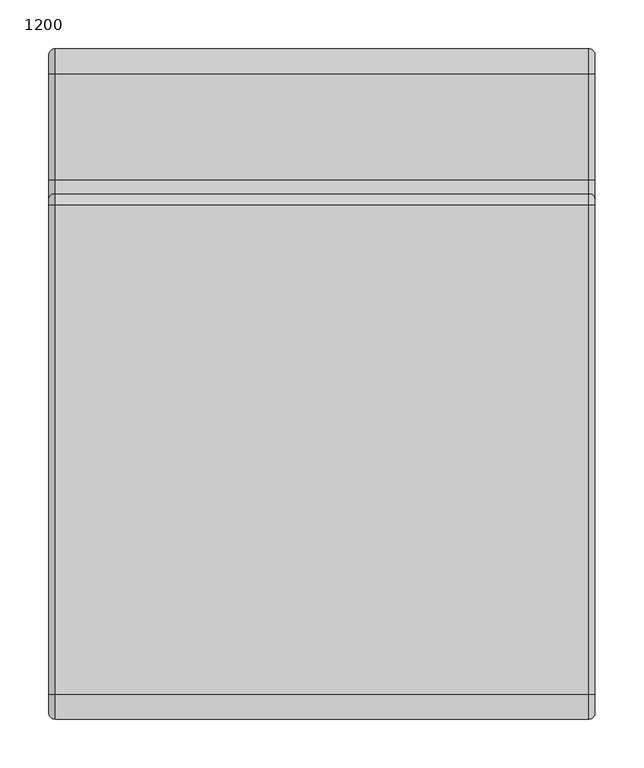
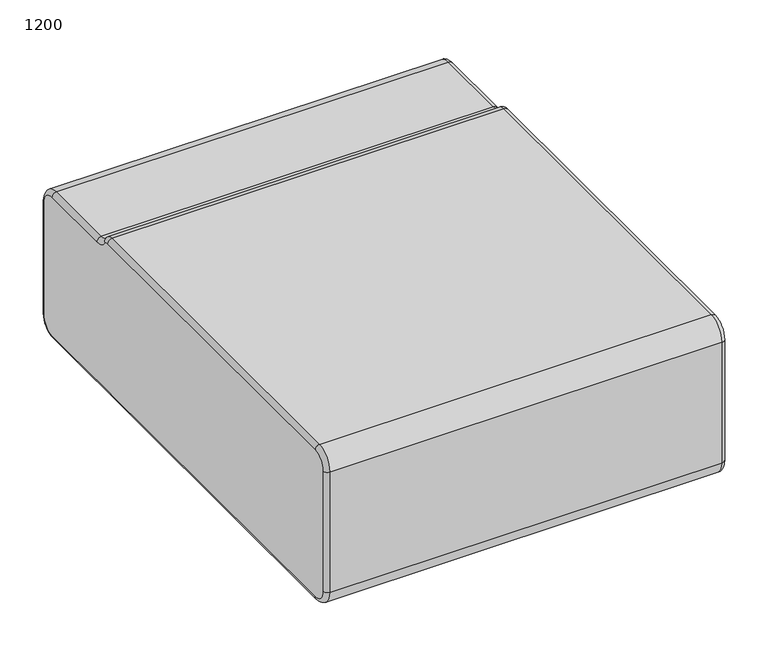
"""IFC4 building model written with IfcOpenShell, lengths in millimetres: furniture geometry, Laguna-Modular-Straight-ERG : 1200."""

from ifc_helpers import new_model, si_unit, point, frame, origin, place, context, project, spatial, polyline, circle_curve, ellipse_curve, trimmed, source, transform, mapped, element, save
from ifc_brep_helpers import plane_surface, cylinder_surface, revolved_surface, advanced_brep


def furniture_1200_cece1507(model_context):
    return source(origin(), model_context, "Body", "AdvancedBrep", [
        advanced_brep(
        [(-4103.9421763, 1208.7558502, 209.55), (-4103.9421763, 1227.8058502, 228.6), (-4103.9421763, 1227.8058502, 393.7), (-4103.9421763, 1208.7558502, 412.75), (-4103.9421763, 1100.3633388, 412.75), (-4103.9421763, 1081.0629451, 422.2976649), (-4103.9421763, 1074.6905694, 425.45), (-4103.9421763, 573.7558502, 425.45), (-4103.9421763, 554.7058502, 406.4), (-4103.9421763, 554.7058502, 228.6), (-4103.9421763, 573.7558513, 209.55), (-4662.7421763, 573.7558502, 209.55), (-4662.7421763, 554.7058502, 228.6), (-4662.7421763, 554.7058502, 406.4), (-4662.7421763, 573.7558502, 425.45), (-4662.7421763, 1074.6905694, 425.45), (-4662.7421763, 1081.0629451, 422.2976649), (-4662.7421763, 1100.3633388, 412.75), (-4662.7421763, 1208.7558502, 412.75), (-4662.7421763, 1227.8058502, 393.7), (-4662.7421763, 1227.8058502, 228.6), (-4662.7421763, 1208.7558502, 209.55), (-4110.2921763, 1208.7558502, 203.2), (-4110.2921763, 1234.1558502, 228.6), (-4110.2921763, 1234.1558502, 393.7), (-4110.2921763, 1208.7558502, 419.1), (-4110.2921763, 1100.3633388, 419.1), (-4110.2921763, 1086.1103079, 426.1507973), (-4110.2921763, 1074.6905694, 431.8), (-4110.2921763, 573.7558502, 431.8), (-4110.2921763, 548.3558502, 406.4), (-4110.2921763, 548.3558502, 228.6), (-4110.2921763, 573.7558502, 203.2), (-4656.3921763, 573.7558502, 203.2), (-4656.3921763, 1208.7558502, 203.2), (-4656.3921763, 1234.1558502, 228.6), (-4656.3921763, 1234.1558502, 393.7), (-4656.3921763, 1208.7558502, 419.1), (-4656.3921763, 1100.3633388, 419.1), (-4656.3921763, 1086.1103079, 426.1507973), (-4656.3921763, 1074.6905694, 431.8), (-4656.3921763, 573.7558502, 431.8), (-4656.3921763, 548.3558502, 406.4), (-4656.3921763, 548.3558502, 228.6)],
        [
            (0, 1, circle_curve(frame((-4103.9421763, 1208.7558502, 228.6), z_axis=(1.0, 0.0, 0.0), x_axis=(0.0, 0.0, -1.0)), 19.05)),
            (1, 2),
            (2, 3, circle_curve(frame((-4103.9421763, 1208.7558502, 393.7), z_axis=(1.0, 0.0, 0.0), x_axis=(0.0, 1.0, 0.0)), 19.05)),
            (3, 4),
            (4, 5, circle_curve(frame((-4103.9421763, 1100.3633388, 437.0314921), z_axis=(-1.0, 0.0, 0.0), x_axis=(0.0, 0.0, -1.0)), 24.2814921)),
            (5, 6, circle_curve(frame((-4103.9421763, 1074.6905694, 417.4330241), z_axis=(1.0, 0.0, 0.0), x_axis=(0.0, 0.7948602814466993, 0.6067924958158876)), 8.0169759)),
            (6, 7),
            (7, 8, circle_curve(frame((-4103.9421763, 573.7558502, 406.4), z_axis=(1.0, 0.0, 0.0), x_axis=(0.0, 0.0, 1.0)), 19.05)),
            (8, 9),
            (9, 10, circle_curve(frame((-4103.9421763, 573.7558502, 228.6), z_axis=(1.0, 0.0, 0.0), x_axis=(0.0, -1.0, 0.0)), 19.05)),
            (10, 0),
            (11, 12, circle_curve(frame((-4662.7421763, 573.7558502, 228.6), z_axis=(-1.0, 0.0, 0.0), x_axis=(0.0, -1.0, 0.0)), 19.05)),
            (12, 13),
            (13, 14, circle_curve(frame((-4662.7421763, 573.7558502, 406.4), z_axis=(-1.0, 0.0, 0.0), x_axis=(0.0, 0.0, 1.0)), 19.05)),
            (14, 15),
            (15, 16, circle_curve(frame((-4662.7421763, 1074.6905694, 417.4330241), z_axis=(-1.0, 0.0, 0.0), x_axis=(0.0, 0.7948602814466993, 0.6067924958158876)), 8.0169759)),
            (16, 17, circle_curve(frame((-4662.7421763, 1100.3633388, 437.0314921), z_axis=(1.0, 0.0, 0.0), x_axis=(0.0, 0.0, -1.0)), 24.2814921)),
            (17, 18),
            (18, 19, circle_curve(frame((-4662.7421763, 1208.7558502, 393.7), z_axis=(-1.0, 0.0, 0.0), x_axis=(0.0, 1.0, 0.0)), 19.05)),
            (19, 20),
            (20, 21, circle_curve(frame((-4662.7421763, 1208.7558502, 228.6), z_axis=(-1.0, 0.0, 0.0), x_axis=(0.0, 0.0, -1.0)), 19.05)),
            (21, 11),
            (0, 22, circle_curve(frame((-4110.2921763, 1208.7558502, 209.55), z_axis=(0.0, 1.0, 0.0), x_axis=(0.0, 0.0, 1.0)), 6.35)),
            (22, 23, circle_curve(frame((-4110.2921763, 1208.7558502, 228.6), z_axis=(1.0, 0.0, 0.0), x_axis=(0.0, 0.0, -1.0)), 25.4)),
            (23, 1, circle_curve(frame((-4110.2921763, 1227.8058502, 228.6), z_axis=(0.0, 0.0, -1.0), x_axis=(0.0, -1.0, 0.0)), 6.35)),
            (23, 24),
            (24, 2, circle_curve(frame((-4110.2921763, 1227.8058502, 393.7), z_axis=(0.0, 0.0, -1.0), x_axis=(0.0, -1.0, 0.0)), 6.35)),
            (24, 25, circle_curve(frame((-4110.2921763, 1208.7558502, 393.7), z_axis=(1.0, 0.0, 0.0), x_axis=(0.0, 1.0, 0.0)), 25.4)),
            (25, 3, circle_curve(frame((-4110.2921763, 1208.7558502, 412.75), z_axis=(0.0, 1.0, 0.0), x_axis=(0.0, 0.0, -1.0)), 6.35)),
            (25, 26),
            (26, 4, circle_curve(frame((-4110.2921763, 1100.3633388, 412.75), z_axis=(0.0, 1.0, 0.0), x_axis=(0.0, 0.0, -1.0)), 6.35)),
            (26, 27, circle_curve(frame((-4110.2921763, 1100.3633388, 437.0314921), z_axis=(-1.0, 0.0, 0.0), x_axis=(0.0, 0.0, -1.0)), 17.9314921)),
            (27, 5, circle_curve(frame((-4110.2921763, 1081.0629451, 422.2976649), z_axis=(0.0, 0.6067924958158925, -0.7948602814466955), x_axis=(0.0, -0.7948602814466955, -0.6067924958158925)), 6.35)),
            (27, 28, circle_curve(frame((-4110.2921763, 1074.6905694, 417.4330241), z_axis=(1.0, 0.0, 0.0), x_axis=(0.0, 0.7948602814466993, 0.6067924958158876)), 14.3669759)),
            (28, 6, circle_curve(frame((-4110.2921763, 1074.6905694, 425.45), z_axis=(0.0, 1.0, 0.0), x_axis=(0.0, 0.0, -1.0)), 6.35)),
            (28, 29),
            (29, 7, circle_curve(frame((-4110.2921763, 573.7558502, 425.45), z_axis=(0.0, 1.0, 0.0), x_axis=(0.0, 0.0, -1.0)), 6.35)),
            (29, 30, circle_curve(frame((-4110.2921763, 573.7558502, 406.4), z_axis=(1.0, 0.0, 0.0), x_axis=(0.0, 0.0, 1.0)), 25.4)),
            (30, 8, circle_curve(frame((-4110.2921763, 554.7058502, 406.4), z_axis=(0.0, 0.0, 1.0), x_axis=(0.0, 1.0, 0.0)), 6.35)),
            (30, 31),
            (31, 9, circle_curve(frame((-4110.2921763, 554.7058502, 228.6), z_axis=(0.0, 0.0, 1.0), x_axis=(0.0, 1.0, 0.0)), 6.35)),
            (31, 32, circle_curve(frame((-4110.2921763, 573.7558502, 228.6), z_axis=(1.0, 0.0, 0.0), x_axis=(0.0, -1.0, 0.0)), 25.4)),
            (32, 10, circle_curve(frame((-4110.2921763, 573.7558502, 209.55), z_axis=(0.0, -1.0, 0.0), x_axis=(0.0, 0.0, 1.0)), 6.35)),
            (32, 22),
            (32, 33),
            (33, 34),
            (34, 22),
            (34, 35, circle_curve(frame((-4656.3921763, 1208.7558502, 228.6), z_axis=(1.0, 0.0, 0.0), x_axis=(0.0, 1.0, 0.0)), 25.4)),
            (35, 23),
            (35, 36),
            (36, 24),
            (36, 37, circle_curve(frame((-4656.3921763, 1208.7558502, 393.7), z_axis=(1.0, 0.0, 0.0), x_axis=(0.0, 1.0, 0.0)), 25.4)),
            (37, 25),
            (37, 38),
            (38, 26),
            (38, 39, circle_curve(frame((-4656.3921763, 1100.3633388, 437.0314921), z_axis=(-1.0, 0.0, 0.0), x_axis=(0.0, 1.0, 0.0)), 17.9314921)),
            (39, 27),
            (39, 40, circle_curve(frame((-4656.3921763, 1074.6905694, 417.4330241), z_axis=(1.0, 0.0, 0.0), x_axis=(0.0, 1.0, 0.0)), 14.3669759)),
            (40, 28),
            (40, 41),
            (41, 29),
            (41, 42, circle_curve(frame((-4656.3921763, 573.7558502, 406.4), z_axis=(1.0, 0.0, 0.0), x_axis=(0.0, 1.0, 0.0)), 25.4)),
            (42, 30),
            (42, 43),
            (43, 31),
            (43, 33, circle_curve(frame((-4656.3921763, 573.7558502, 228.6), z_axis=(1.0, 0.0, 0.0), x_axis=(0.0, 1.0, 0.0)), 25.4)),
            (43, 12, circle_curve(frame((-4656.3921763, 554.7058502, 228.6), z_axis=(0.0, 0.0, -1.0), x_axis=(1.0, 0.0, 0.0)), 6.35)),
            (11, 33, circle_curve(frame((-4656.3921763, 573.7558502, 209.55), z_axis=(0.0, -1.0, 0.0), x_axis=(1.0, 0.0, 0.0)), 6.35)),
            (21, 34, circle_curve(frame((-4656.3921763, 1208.7558502, 209.55), z_axis=(0.0, -1.0, 0.0), x_axis=(1.0, 0.0, 0.0)), 6.35)),
            (20, 35, circle_curve(frame((-4656.3921763, 1227.8058502, 228.6), z_axis=(0.0, 0.0, -1.0), x_axis=(1.0, 0.0, 0.0)), 6.35)),
            (19, 36, circle_curve(frame((-4656.3921763, 1227.8058502, 393.7), z_axis=(0.0, 0.0, -1.0), x_axis=(1.0, 0.0, 0.0)), 6.35)),
            (18, 37, circle_curve(frame((-4656.3921763, 1208.7558502, 412.75), z_axis=(0.0, 1.0, 0.0), x_axis=(1.0, 0.0, 0.0)), 6.35)),
            (17, 38, circle_curve(frame((-4656.3921763, 1100.3633388, 412.75), z_axis=(0.0, 1.0, 0.0), x_axis=(1.0, 0.0, 0.0)), 6.35)),
            (16, 39, circle_curve(frame((-4656.3921763, 1081.0629451, 422.2976649), z_axis=(0.0, 0.6067924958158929, -0.7948602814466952), x_axis=(1.0, 0.0, 0.0)), 6.35)),
            (15, 40, circle_curve(frame((-4656.3921763, 1074.6905694, 425.45), z_axis=(0.0, 1.0, 0.0), x_axis=(1.0, 0.0, 0.0)), 6.35)),
            (14, 41, circle_curve(frame((-4656.3921763, 573.7558502, 425.45), z_axis=(0.0, 1.0, 0.0), x_axis=(1.0, 0.0, 0.0)), 6.35)),
            (13, 42, circle_curve(frame((-4656.3921763, 554.7058502, 406.4), z_axis=(0.0, 0.0, 1.0), x_axis=(1.0, 0.0, 0.0)), 6.35)),
        ],
        [
            plane_surface(frame((-4103.9421763, 1208.7558502, 209.55), z_axis=(1.0, 0.0, 0.0), x_axis=(0.0, 1.0, 0.0))),
            plane_surface(frame((-4662.7421763, 587.7103097, 425.45), z_axis=(-1.0, 0.0, 0.0), x_axis=(0.0, 1.0, 0.0))),
            revolved_surface(trimmed(ellipse_curve(frame((-4110.2921763, 1208.7558502, 209.55), z_axis=(0.0, -1.0, 0.0), x_axis=(0.0, 0.0, 1.0)), 6.35, 6.35), [point((-4110.2921763, 1208.7558502, 203.2))], [point((-4103.9421763, 1208.7558502, 209.55))], True, "CARTESIAN"), (-4110.2921763, 1208.7558502, 228.6), (1.0, 0.0, 0.0)),
            cylinder_surface(frame((-4110.2921763, 1227.8058502, 228.6), z_axis=(0.0, 0.0, -1.0), x_axis=(0.0, -1.0, 0.0)), 6.35),
            revolved_surface(trimmed(ellipse_curve(frame((-4110.2921763, 1227.8058502, 393.7), z_axis=(0.0, 0.0, -1.0), x_axis=(0.0, -1.0, 0.0)), 6.35, 6.35), [point((-4110.2921763, 1234.1558502, 393.7))], [point((-4103.9421763, 1227.8058502, 393.7))], True, "CARTESIAN"), (-4110.2921763, 1208.7558502, 393.7), (1.0, 0.0, 0.0)),
            cylinder_surface(frame((-4110.2921763, 1208.7558502, 412.75), z_axis=(0.0, 1.0, 0.0), x_axis=(0.0, 0.0, -1.0)), 6.35),
            revolved_surface(trimmed(ellipse_curve(frame((-4110.2921763, 1100.3633388, 412.75), z_axis=(0.0, 1.0, 0.0), x_axis=(0.0, 0.0, -1.0)), 6.35, 6.35), [point((-4110.2921763, 1100.3633388, 419.1))], [point((-4103.9421763, 1100.3633388, 412.75))], True, "CARTESIAN"), (-4110.2921763, 1100.3633388, 437.0314921), (-1.0, 0.0, 0.0)),
            revolved_surface(trimmed(ellipse_curve(frame((-4110.2921763, 1081.0629451, 422.2976649), z_axis=(0.0, 0.6067924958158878, -0.7948602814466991), x_axis=(0.0, -0.7948602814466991, -0.6067924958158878)), 6.35, 6.35), [point((-4110.2921763, 1086.1103079, 426.1507973))], [point((-4103.9421763, 1081.0629451, 422.2976649))], True, "CARTESIAN"), (-4110.2921763, 1074.6905694, 417.4330241), (1.0, 0.0, 0.0)),
            cylinder_surface(frame((-4110.2921763, 1074.6905694, 425.45), z_axis=(0.0, 1.0, 0.0), x_axis=(0.0, 0.0, -1.0)), 6.35),
            revolved_surface(trimmed(ellipse_curve(frame((-4110.2921763, 573.7558502, 425.45), z_axis=(0.0, 1.0, 0.0), x_axis=(0.0, 0.0, -1.0)), 6.35, 6.35), [point((-4110.2921763, 573.7558502, 431.8))], [point((-4103.9421763, 573.7558502, 425.45))], True, "CARTESIAN"), (-4110.2921763, 573.7558502, 406.4), (1.0, 0.0, 0.0)),
            cylinder_surface(frame((-4110.2921763, 554.7058502, 406.4), z_axis=(0.0, 0.0, 1.0), x_axis=(0.0, 1.0, 0.0)), 6.35),
            revolved_surface(trimmed(ellipse_curve(frame((-4110.2921763, 554.7058502, 228.6), z_axis=(0.0, 0.0, 1.0), x_axis=(0.0, 1.0, 0.0)), 6.35, 6.35), [point((-4110.2921763, 548.3558502, 228.6))], [point((-4103.9421763, 554.7058502, 228.6))], True, "CARTESIAN"), (-4110.2921763, 573.7558502, 228.6), (1.0, 0.0, 0.0)),
            cylinder_surface(frame((-4110.2921763, 573.7558502, 209.55), z_axis=(0.0, -1.0, 0.0), x_axis=(0.0, 0.0, 1.0)), 6.35),
            plane_surface(frame((-4110.2921763, 573.7558502, 203.2), z_axis=(0.0, 0.0, -1.0), x_axis=(-1.0, 0.0, 0.0))),
            cylinder_surface(frame((-4656.3921763, 1208.7558502, 228.6), z_axis=(1.0, 0.0, 0.0), x_axis=(0.0, 1.0, 0.0)), 25.4),
            plane_surface(frame((-4110.2921763, 1234.1558502, 228.6), z_axis=(0.0, 1.0, 0.0), x_axis=(-1.0, 0.0, 0.0))),
            cylinder_surface(frame((-4656.3921763, 1208.7558502, 393.7), z_axis=(1.0, 0.0, 0.0), x_axis=(0.0, 1.0, 0.0)), 25.4),
            plane_surface(frame((-4110.2921763, 1208.7558502, 419.1), z_axis=(0.0, 0.0, 1.0), x_axis=(-1.0, 0.0, 0.0))),
            revolved_surface(polyline([(-4656.3921763, 1118.2948309, 437.0314921), (-4110.2921763, 1118.2948309, 437.0314921)]), (-4656.3921763, 1100.3633388, 437.0314921), (-1.0, 0.0, 0.0)),
            cylinder_surface(frame((-4656.3921763, 1074.6905694, 417.4330241), z_axis=(1.0, 0.0, 0.0), x_axis=(0.0, 1.0, 0.0)), 14.3669759),
            plane_surface(frame((-4110.2921763, 1074.6905694, 431.8), z_axis=(0.0, 0.0, 1.0), x_axis=(-1.0, 0.0, 0.0))),
            cylinder_surface(frame((-4656.3921763, 573.7558502, 406.4), z_axis=(1.0, 0.0, 0.0), x_axis=(0.0, 1.0, 0.0)), 25.4),
            plane_surface(frame((-4110.2921763, 548.3558502, 406.4), z_axis=(0.0, -1.0, 0.0), x_axis=(-1.0, 0.0, 0.0))),
            cylinder_surface(frame((-4656.3921763, 573.7558502, 228.6), z_axis=(1.0, 0.0, 0.0), x_axis=(0.0, 1.0, 0.0)), 25.4),
            revolved_surface(trimmed(ellipse_curve(frame((-4656.3921763, 554.7058502, 228.6), z_axis=(0.0, 0.0, 1.0), x_axis=(1.0, 0.0, 0.0)), 6.35, 6.35), [point((-4662.7421763, 554.7058502, 228.6))], [point((-4656.3921763, 548.3558502, 228.6))], True, "CARTESIAN"), (-4656.3921763, 573.7558502, 228.6), (1.0, 0.0, 0.0)),
            cylinder_surface(frame((-4656.3921763, 573.7558502, 209.55), z_axis=(0.0, -1.0, 0.0), x_axis=(1.0, 0.0, 0.0)), 6.35),
            revolved_surface(trimmed(ellipse_curve(frame((-4656.3921763, 1208.7558502, 209.55), z_axis=(0.0, -1.0, 0.0), x_axis=(1.0, 0.0, 0.0)), 6.35, 6.35), [point((-4662.7421763, 1208.7558502, 209.55))], [point((-4656.3921763, 1208.7558502, 203.2))], True, "CARTESIAN"), (-4656.3921763, 1208.7558502, 228.6), (1.0, 0.0, 0.0)),
            cylinder_surface(frame((-4656.3921763, 1227.8058502, 228.6), z_axis=(0.0, 0.0, -1.0), x_axis=(1.0, 0.0, 0.0)), 6.35),
            revolved_surface(trimmed(ellipse_curve(frame((-4656.3921763, 1227.8058502, 393.7), z_axis=(0.0, 0.0, -1.0), x_axis=(1.0, 0.0, 0.0)), 6.35, 6.35), [point((-4662.7421763, 1227.8058502, 393.7))], [point((-4656.3921763, 1234.1558502, 393.7))], True, "CARTESIAN"), (-4656.3921763, 1208.7558502, 393.7), (1.0, 0.0, 0.0)),
            cylinder_surface(frame((-4656.3921763, 1208.7558502, 412.75), z_axis=(0.0, 1.0, 0.0), x_axis=(1.0, 0.0, 0.0)), 6.35),
            revolved_surface(trimmed(ellipse_curve(frame((-4656.3921763, 1100.3633388, 412.75), z_axis=(0.0, 1.0, 0.0), x_axis=(1.0, 0.0, 0.0)), 6.35, 6.35), [point((-4662.7421763, 1100.3633388, 412.75))], [point((-4656.3921763, 1100.3633388, 419.1))], True, "CARTESIAN"), (-4656.3921763, 1100.3633388, 437.0314921), (-1.0, 0.0, 0.0)),
            revolved_surface(trimmed(ellipse_curve(frame((-4656.3921763, 1081.0629451, 422.2976649), z_axis=(0.0, 0.6067924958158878, -0.7948602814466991), x_axis=(1.0, 0.0, 0.0)), 6.35, 6.35), [point((-4662.7421763, 1081.0629451, 422.2976649))], [point((-4656.3921763, 1086.1103079, 426.1507973))], True, "CARTESIAN"), (-4656.3921763, 1074.6905694, 417.4330241), (1.0, 0.0, 0.0)),
            cylinder_surface(frame((-4656.3921763, 1074.6905694, 425.45), z_axis=(0.0, 1.0, 0.0), x_axis=(1.0, 0.0, 0.0)), 6.35),
            revolved_surface(trimmed(ellipse_curve(frame((-4656.3921763, 573.7558502, 425.45), z_axis=(0.0, 1.0, 0.0), x_axis=(1.0, 0.0, 0.0)), 6.35, 6.35), [point((-4662.7421763, 573.7558502, 425.45))], [point((-4656.3921763, 573.7558502, 431.8))], True, "CARTESIAN"), (-4656.3921763, 573.7558502, 406.4), (1.0, 0.0, 0.0)),
            cylinder_surface(frame((-4656.3921763, 554.7058502, 406.4), z_axis=(0.0, 0.0, 1.0), x_axis=(1.0, 0.0, 0.0)), 6.35),
        ],
        [
            (0, [[1, 2, 3, 4, 5, 6, 7, 8, 9, 10, 11]]),
            (1, [[12, 13, 14, 15, 16, 17, 18, 19, 20, 21, 22]]),
            (2, [[23, 24, 25, -1]]),
            (3, [[-25, 26, 27, -2]]),
            (4, [[-27, 28, 29, -3]]),
            (5, [[-29, 30, 31, -4]]),
            (6, [[-31, 32, 33, -5]]),
            (7, [[-33, 34, 35, -6]]),
            (8, [[-35, 36, 37, -7]]),
            (9, [[-37, 38, 39, -8]]),
            (10, [[-39, 40, 41, -9]]),
            (11, [[-41, 42, 43, -10]]),
            (12, [[-23, -11, -43, 44]]),
            (13, [[45, 46, 47, -44]]),
            (14, [[-47, 48, 49, -24]]),
            (15, [[-49, 50, 51, -26]]),
            (16, [[-51, 52, 53, -28]]),
            (17, [[-53, 54, 55, -30]]),
            (18, [[-55, 56, 57, -32]]),
            (19, [[-57, 58, 59, -34]]),
            (20, [[-59, 60, 61, -36]]),
            (21, [[-61, 62, 63, -38]]),
            (22, [[-63, 64, 65, -40]]),
            (23, [[-45, -42, -65, 66]]),
            (24, [[67, -12, 68, -66]]),
            (25, [[-68, -22, 69, -46]]),
            (26, [[-69, -21, 70, -48]]),
            (27, [[-70, -20, 71, -50]]),
            (28, [[-71, -19, 72, -52]]),
            (29, [[-72, -18, 73, -54]]),
            (30, [[-73, -17, 74, -56]]),
            (31, [[-74, -16, 75, -58]]),
            (32, [[-75, -15, 76, -60]]),
            (33, [[-76, -14, 77, -62]]),
            (34, [[-67, -64, -77, -13]]),
        ],
    ),
    ])


if __name__ == "__main__":
    model = new_model("IFC4")
    model_context = context("Model", 3, world=origin())
    ifc_project = project(units=[si_unit("LENGTHUNIT", "METRE", prefix="MILLI")], contexts=[model_context])
    site = spatial("IfcSite", under=ifc_project)
    building = spatial("IfcBuilding", under=site)
    placement = place(None, origin())
    furniture_1200_shape = furniture_1200_cece1507(model_context)
    element("IfcFurniture", 1, ObjectType="Laguna-Modular-Straight-ERG : 1200", at=placement, inside=building, context=model_context, shape_type="MappedRepresentation", body=[
        mapped(furniture_1200_shape, transform((0.0, 0.0, 0.0), x_axis=(1.0, 0.0, 0.0), y_axis=(0.0, 1.0, 0.0), z_axis=(0.0, 0.0, 1.0))),
    ])
    save(model, "model.ifc")
